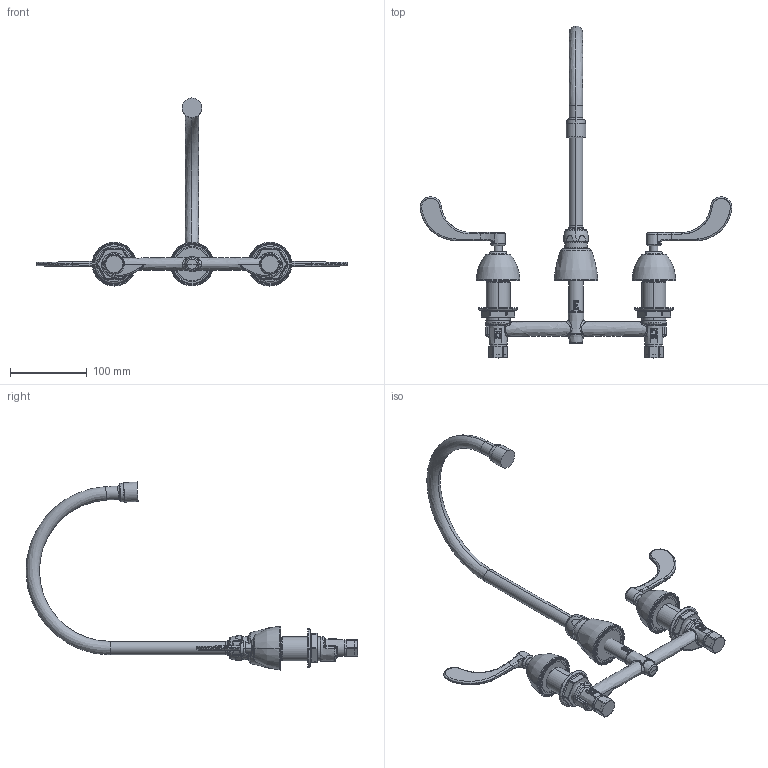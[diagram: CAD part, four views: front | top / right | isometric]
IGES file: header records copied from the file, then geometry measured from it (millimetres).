
Start section:  PTC IGES file: 201-AGN8AE2805-5-317ABCP_REV061511.igs
Global section: file name: 201-AGN8AE2805-5-317ABCP_REV061511.igs; native system: Pro/ENGINEER by Parametric Technology Corporation; preprocessor: 2010230; author: sdmitruk; organization: Unknown; date: 20110615.113424; units: inch
Bounding box: 406.38 x 432.59 x 245.15 mm (x, y, z)
Surface area: 141326.2 mm2 (no closed solid volume)
Topology: 0 solids, 0 shells, 740 faces, 5087 edges, 6770 vertices
Faces by surface type: revolution 409, bspline 331
